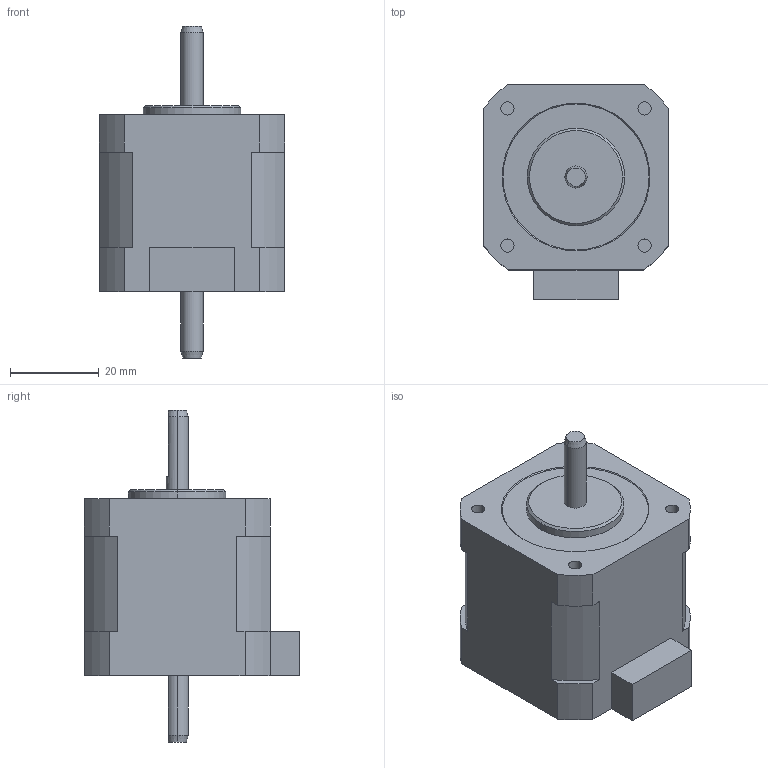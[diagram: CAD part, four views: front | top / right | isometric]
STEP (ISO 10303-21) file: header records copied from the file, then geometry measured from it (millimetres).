
FILE_DESCRIPTION (( 'STEP AP203' ), '1' );
FILE_NAME ('PMSA-U42D2D_3D.STEP', '2017-01-31T04:30:49', ( 'user01' ), ( '' ), 'SwSTEP 2.0', 'SolidWorks 2014', '' );
FILE_SCHEMA (( 'CONFIG_CONTROL_DESIGN' ));
Length unit declared in the file: millimetre
Products named in the file (1): PMSA-U42D2D_3D
Bounding box: 42 x 48.7 x 75 mm (x, y, z)
Volume: 69772.2 mm3; surface area: 10794.1 mm2
Topology: 1 solids, 1 shells, 66 faces, 162 edges, 106 vertices
Faces by surface type: plane 29, cylinder 27, cone 10
Entity records: 2063 total; most frequent: CARTESIAN_POINT 363, DIRECTION 360, ORIENTED_EDGE 324, EDGE_CURVE 162, AXIS2_PLACEMENT_3D 135, VERTEX_POINT 106, VECTOR 90, LINE 90
